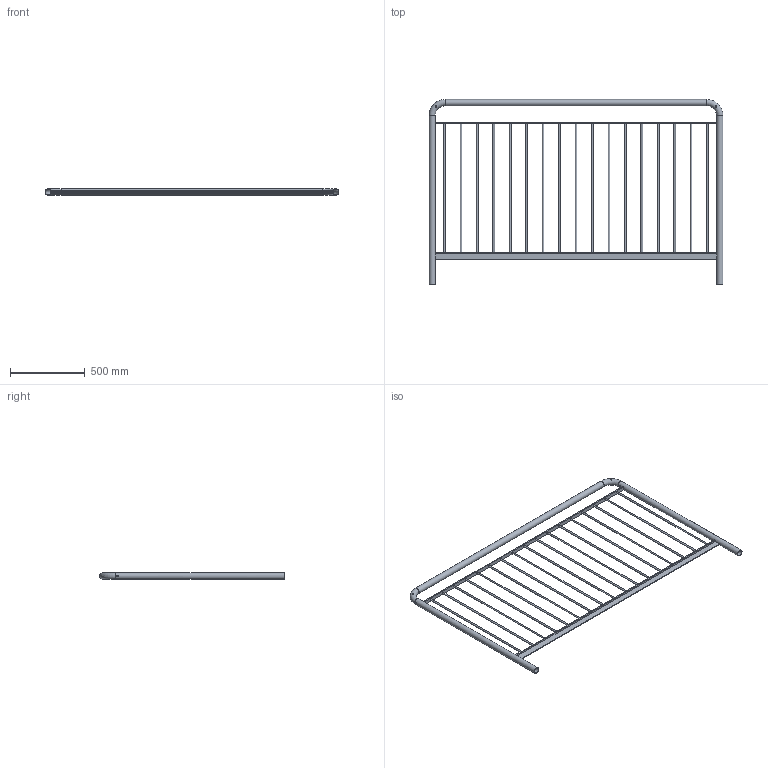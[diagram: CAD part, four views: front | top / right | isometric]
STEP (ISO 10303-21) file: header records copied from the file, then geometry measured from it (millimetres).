
FILE_DESCRIPTION((''),'2;1');
FILE_NAME('S:\Användarkataloger\AndreasA\Mina Inventor filer\Räcken\STEP\modul_bos_2000-1216.stp','2010-09-07T13:26:53',('AndreasA'),(''),'Autodesk Inventor 2011','Autodesk Inventor 2011','');
FILE_SCHEMA(('AUTOMOTIVE_DESIGN { 1 0 10303 214 1 1 1 1 }'));
Length unit declared in the file: millimetre
Products named in the file (4): modul_bos_2000-1216; handledare_modul_2000-1216; galleri_modul_2000; pls_modul_bos_2000
Assembly tree (3 placements, depth 2):
  modul_bos_2000-1216
    handledare_modul_2000-1216
    galleri_modul_2000
    pls_modul_bos_2000
Bounding box: 1965.4 x 1237.2 x 42.4 mm (x, y, z)
Volume: 3609435.2 mm3; surface area: 2009315 mm2
Topology: 3 solids, 3 shells, 55 faces, 145 edges, 94 vertices
Faces by surface type: cylinder 31, plane 20, torus 4
Full cylindrical faces by diameter (mm): 10 x4, 11 x21, 38.4 x3, 42.4 x3
Entity records: 2337 total; most frequent: CARTESIAN_POINT 962, DIRECTION 252, ORIENTED_EDGE 196, EDGE_LOOP 142, AXIS2_PLACEMENT_3D 108, EDGE_CURVE 98, FACE_BOUND 87, VERTEX_POINT 86
